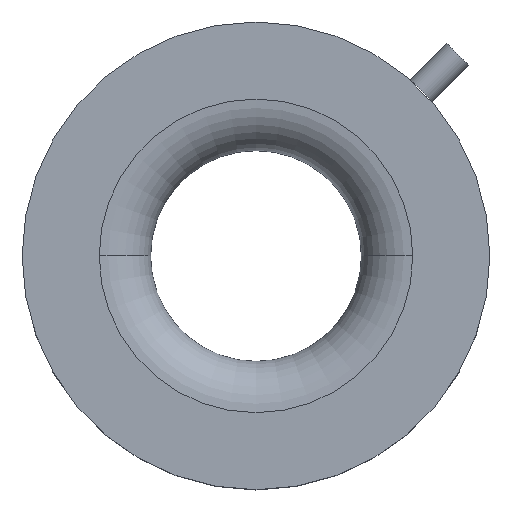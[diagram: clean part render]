
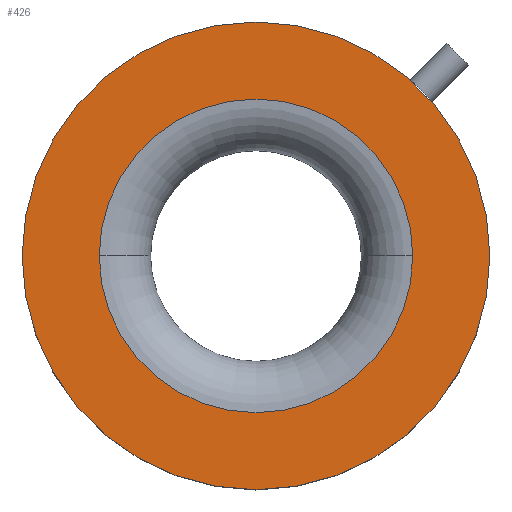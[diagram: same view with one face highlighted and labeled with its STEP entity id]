
A CAD part, top view. The second image highlights one B-rep face of the part: STEP entity #426.
In plain terms, the highlighted planar face has unit normal (0, 0, 1).
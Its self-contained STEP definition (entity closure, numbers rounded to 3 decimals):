
#15 = FACE_OUTER_BOUND ( 'NONE', #490, .T. ) ;
#45 = DIRECTION ( 'NONE',  ( 1., 0., 0. ) ) ;
#73 = CARTESIAN_POINT ( 'NONE',  ( 0., 0., 26.4 ) ) ;
#83 = CARTESIAN_POINT ( 'NONE',  ( -30.5, 0., 26.4 ) ) ;
#88 = CARTESIAN_POINT ( 'NONE',  ( 0., 0., 26.4 ) ) ;
#122 = DIRECTION ( 'NONE',  ( 0., 0., 1. ) ) ;
#149 = CIRCLE ( 'NONE', #516, 45.5 ) ;
#163 = VERTEX_POINT ( 'NONE', #563 ) ;
#165 = DIRECTION ( 'NONE',  ( 1., 0., 0. ) ) ;
#171 = CARTESIAN_POINT ( 'NONE',  ( 0., 0., 26.4 ) ) ;
#186 = CIRCLE ( 'NONE', #640, 30.5 ) ;
#203 = EDGE_CURVE ( 'NONE', #207, #417, #574, .T. ) ;
#207 = VERTEX_POINT ( 'NONE', #83 ) ;
#356 = DIRECTION ( 'NONE',  ( 0., 0., 1. ) ) ;
#360 = CARTESIAN_POINT ( 'NONE',  ( 0., 0., 26.4 ) ) ;
#363 = EDGE_CURVE ( 'NONE', #163, #833, #474, .T. ) ;
#380 = AXIS2_PLACEMENT_3D ( 'NONE', #88, #549, #855 ) ;
#386 = DIRECTION ( 'NONE',  ( 1., 0., 0. ) ) ;
#417 = VERTEX_POINT ( 'NONE', #923 ) ;
#422 = ORIENTED_EDGE ( 'NONE', *, *, #662, .T. ) ;
#426 = ADVANCED_FACE ( 'NONE', ( #554, #15 ), #936, .T. ) ;
#474 = CIRCLE ( 'NONE', #380, 45.5 ) ;
#490 = EDGE_LOOP ( 'NONE', ( #716, #799 ) ) ;
#496 = EDGE_CURVE ( 'NONE', #833, #163, #149, .T. ) ;
#516 = AXIS2_PLACEMENT_3D ( 'NONE', #649, #356, #45 ) ;
#549 = DIRECTION ( 'NONE',  ( 0., 0., 1. ) ) ;
#554 = FACE_BOUND ( 'NONE', #646, .T. ) ;
#562 = CARTESIAN_POINT ( 'NONE',  ( 45.5, 0., 26.4 ) ) ;
#563 = CARTESIAN_POINT ( 'NONE',  ( -45.5, 0., 26.4 ) ) ;
#574 = CIRCLE ( 'NONE', #937, 30.5 ) ;
#579 = DIRECTION ( 'NONE',  ( 1., 0., 0. ) ) ;
#590 = DIRECTION ( 'NONE',  ( 0., 0., -1. ) ) ;
#615 = DIRECTION ( 'NONE',  ( 0., 0., -1. ) ) ;
#640 = AXIS2_PLACEMENT_3D ( 'NONE', #171, #615, #165 ) ;
#646 = EDGE_LOOP ( 'NONE', ( #422, #742 ) ) ;
#649 = CARTESIAN_POINT ( 'NONE',  ( 0., 0., 26.4 ) ) ;
#662 = EDGE_CURVE ( 'NONE', #417, #207, #186, .T. ) ;
#716 = ORIENTED_EDGE ( 'NONE', *, *, #363, .T. ) ;
#742 = ORIENTED_EDGE ( 'NONE', *, *, #203, .T. ) ;
#755 = AXIS2_PLACEMENT_3D ( 'NONE', #360, #122, #579 ) ;
#799 = ORIENTED_EDGE ( 'NONE', *, *, #496, .T. ) ;
#833 = VERTEX_POINT ( 'NONE', #562 ) ;
#855 = DIRECTION ( 'NONE',  ( 1., 0., 0. ) ) ;
#923 = CARTESIAN_POINT ( 'NONE',  ( 30.5, 0., 26.4 ) ) ;
#936 = PLANE ( 'NONE',  #755 ) ;
#937 = AXIS2_PLACEMENT_3D ( 'NONE', #73, #590, #386 ) ;
